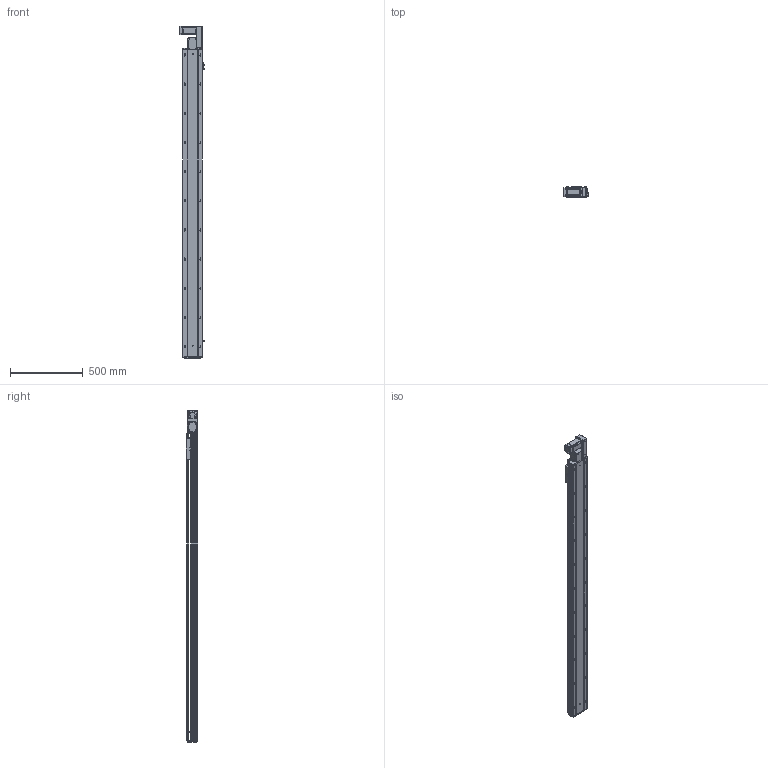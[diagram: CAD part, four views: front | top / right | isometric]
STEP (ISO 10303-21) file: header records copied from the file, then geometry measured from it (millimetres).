
FILE_DESCRIPTION (( 'STEP AP203' ), '1' );
FILE_NAME ('RY140-T-300-RK.SLDASM_1850.step', '2021-03-01T06:47:03', ( '盈信电脑' ), ( '东莞市道滘镇水果街19号' ), 'SwSTEP 2.0', 'SolidWorks 2012', '' );
FILE_SCHEMA (( 'CONFIG_CONTROL_DESIGN' ));
Products named in the file (17): RY120-T主同步轮轴承压盖; RY140-T-300-RK.SLDASM_1850; 15; RY140-T萇儂假蚾啣; RY120-T蹟翐M4; 滅袉蝶18-10; RY140-T翋肮祭謫盓傅釱; RY140-T翋肮謫裔啣; RY140-T萇儂欶; RY120-T肮祭湍揤踡輸1; RY120外置感应片(140共用）; RY120-T肮祭湍揤踡輸2; 覜茼ん672; RY140-T-300-DR倰第奻裔啣_1850; RY140-T-300-DR倰第菁釱_1850; RY140肮祭謫臏賑輸; RY140綴裔啣
Assembly tree (22 placements, depth 2):
  RY140-T-300-RK.SLDASM_1850
    RY140-T-300-DR倰第菁釱_1850
    RY140肮祭謫臏賑輸
    RY140-T-300-DR倰第奻裔啣_1850
    RY140綴裔啣
    覜茼ん672  x3
    RY120外置感应片(140共用）
    RY120-T肮祭湍揤踡輸2
    RY120-T肮祭湍揤踡輸1
    RY140-T翋肮祭謫盓傅釱
    滅袉蝶18-10  x2
    RY140-T翋肮謫裔啣
    RY140-T萇儂欶
    RY140-T萇儂假蚾啣
    RY120-T蹟翐M4  x4
    15
    RY120-T主同步轮轴承压盖
Bounding box: 170.7 x 78 x 2276.5 mm (x, y, z)
Volume: 6029788.3 mm3; surface area: 2354461.2 mm2
Topology: 22 solids, 22 shells, 2847 faces, 7817 edges, 4978 vertices
Faces by surface type: plane 1381, cylinder 1088, cone 278, bspline 100
Entity records: 89934 total; most frequent: CARTESIAN_POINT 21865, ORIENTED_EDGE 14002, DIRECTION 13381, EDGE_CURVE 7001, VERTEX_POINT 4577, AXIS2_PLACEMENT_3D 4494, VECTOR 4393, LINE 4393
